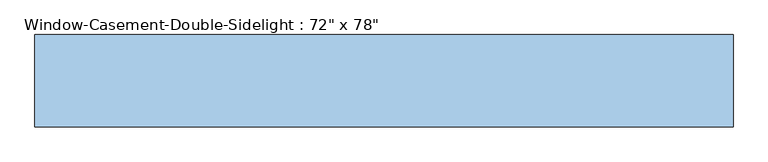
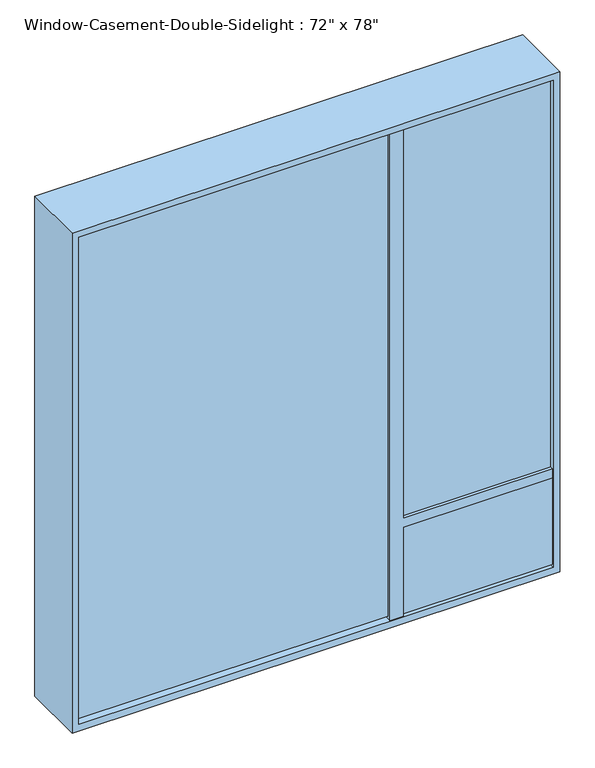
"""IFC4 building model written with IfcOpenShell, lengths in millimetres: window geometry."""

from ifc_helpers import new_model, si_unit, frame, origin, place, context, project, spatial, polyline, outline, extrude, faceted_brep, source, transform, mapped, element, save


def window_9a4b9100(model_context):
    return source(origin(), model_context, "Body", "SolidModel", [
        faceted_brep([(-889.0, -79.375, 2870.2), (279.4, -79.375, 2870.2), (279.4, -117.475, 2870.2), (330.2, -117.475, 2870.2), (330.2, -79.375, 2870.2), (889.0, -79.375, 2870.2), (889.0, -120.65, 2870.2), (-889.0, -120.65, 2870.2), (-878.8796875, -28.575, 2860.0796875), (279.4, -28.575, 2860.0796875), (279.4, -79.375, 2860.0796875), (-878.8796875, -79.375, 2860.0796875), (878.8796875, -79.375, 2860.0796875), (340.3203125, -79.375, 2860.0796875), (340.3203125, -28.575, 2860.0796875), (878.8796875, -28.575, 2860.0796875), (-889.0, 120.65, 2870.2), (889.0, 120.65, 2870.2), (889.0, -28.575, 2870.2), (-889.0, -28.575, 2870.2), (-914.4, -120.65, 2895.6), (914.4, -120.65, 2895.6), (914.4, 120.65, 2895.6), (-914.4, 120.65, 2895.6), (889.0, -79.375, 1328.4001563), (889.0, -117.475, 1328.4001563), (889.0, -117.475, 1292.8798438), (889.0, -79.375, 1292.8798438), (889.0, -79.375, 939.8), (889.0, -120.65, 939.8), (878.8796875, -28.575, 1328.4001563), (878.8796875, -79.375, 1328.4001563), (878.8796875, -79.375, 949.9203125), (878.8796875, -79.375, 1292.8798438), (878.8796875, -28.575, 1292.8798438), (878.8796875, -28.575, 949.9203125), (889.0, 120.65, 939.8), (889.0, -28.575, 939.8), (914.4, -120.65, 914.4), (914.4, 120.65, 914.4), (330.2, -79.375, 939.8), (330.2, -117.475, 939.8), (279.4, -117.475, 939.8), (279.4, -79.375, 939.8), (-889.0, -79.375, 939.8), (-889.0, -120.65, 939.8), (340.3203125, -28.575, 949.9203125), (340.3203125, -79.375, 949.9203125), (-878.8796875, -79.375, 949.9203125), (279.4, -79.375, 949.9203125), (279.4, -28.575, 949.9203125), (-878.8796875, -28.575, 949.9203125), (-889.0, 120.65, 939.8), (-889.0, -28.575, 939.8), (-914.4, -120.65, 914.4), (-914.4, 120.65, 914.4), (330.2, -79.375, 1328.4001563), (340.3203125, -79.375, 1328.4001563), (340.3203125, -79.375, 1292.8798438), (330.2, -79.375, 1292.8798438), (340.3203125, -28.575, 1328.4001563), (340.3203125, -28.575, 1292.8798438), (330.2, -117.475, 1292.8798438), (330.2, -117.475, 1328.4001563)], [[[0, 1, 2, 3, 4, 5, 6, 7]], [[8, 9, 10, 11]], [[12, 13, 14, 15]], [[16, 17, 18, 19]], [[20, 21, 22, 23]], [[5, 24, 25, 26, 27, 28, 29, 6]], [[15, 30, 31, 12]], [[32, 33, 34, 35]], [[17, 36, 37, 18]], [[21, 38, 39, 22]], [[28, 40, 41, 42, 43, 44, 45, 29]], [[35, 46, 47, 32]], [[48, 49, 50, 51]], [[36, 52, 53, 37]], [[38, 54, 55, 39]], [[7, 45, 44, 0]], [[12, 31, 24, 5, 4, 56, 57, 13]], [[44, 43, 49, 48, 11, 10, 1, 0]], [[47, 58, 59, 40, 28, 27, 33, 32]], [[11, 48, 51, 8]], [[19, 18, 37, 53], [15, 14, 60, 30], [35, 34, 61, 46], [51, 50, 9, 8]], [[19, 53, 52, 16]], [[22, 39, 55, 23], [16, 52, 36, 17]], [[23, 55, 54, 20]], [[20, 54, 38, 21], [6, 29, 45, 7]], [[42, 41, 62, 26, 25, 63, 3, 2]], [[2, 1, 10, 9, 50, 49, 43, 42]], [[13, 57, 60, 14]], [[46, 61, 58, 47]], [[40, 59, 62, 41]], [[3, 63, 56, 4]], [[62, 59, 58, 61, 34, 33, 27, 26]], [[25, 24, 31, 30, 60, 57, 56, 63]]]),
        extrude(outline(polyline([(889.0, -92.075), (330.2, -92.075), (330.2, -85.725), (889.0, -85.725), (889.0, -92.075)])), frame((0.0, 0.0, 1328.4001563), z_axis=(0.0, 0.0, 1.0), x_axis=(1.0, 0.0, 0.0)), (0.0, 0.0, 1.0), 1541.7998438),
        extrude(outline(polyline([(889.0, -104.775), (330.2, -104.775), (330.2, -98.425), (889.0, -98.425), (889.0, -104.775)])), frame((0.0, 0.0, 1328.4001563), z_axis=(0.0, 0.0, 1.0), x_axis=(1.0, 0.0, 0.0)), (0.0, 0.0, 1.0), 1541.7998438),
        extrude(outline(polyline([(279.4, -104.775), (-889.0, -104.775), (-889.0, -98.425), (279.4, -98.425), (279.4, -104.775)])), frame((0.0, 0.0, 949.9203125), z_axis=(0.0, 0.0, 1.0), x_axis=(1.0, 0.0, 0.0)), (0.0, 0.0, 1.0), 1920.2796875),
        extrude(outline(polyline([(279.4, -92.075), (-889.0, -92.075), (-889.0, -85.725), (279.4, -85.725), (279.4, -92.075)])), frame((0.0, 0.0, 949.9203125), z_axis=(0.0, 0.0, 1.0), x_axis=(1.0, 0.0, 0.0)), (0.0, 0.0, 1.0), 1920.2796875),
        extrude(outline(polyline([(889.0, -104.775), (889.0, -117.475), (330.2, -117.475), (330.2, -104.775), (889.0, -104.775)])), frame((0.0, 0.0, 949.9203125), z_axis=(0.0, 0.0, 1.0), x_axis=(1.0, 0.0, 0.0)), (0.0, 0.0, 1.0), 342.9595312),
        extrude(outline(polyline([(889.0, -92.075), (330.2, -92.075), (330.2, -85.725), (889.0, -85.725), (889.0, -92.075)])), frame((0.0, 0.0, 949.9203125), z_axis=(0.0, 0.0, 1.0), x_axis=(1.0, 0.0, 0.0)), (0.0, 0.0, 1.0), 342.9595312),
    ])


if __name__ == "__main__":
    model = new_model("IFC4")
    model_context = context("Model", 3, world=origin())
    ifc_project = project(units=[si_unit("LENGTHUNIT", "METRE", prefix="MILLI")], contexts=[model_context])
    site = spatial("IfcSite", under=ifc_project)
    building = spatial("IfcBuilding", under=site)
    placement = place(None, origin())
    window_shape = window_9a4b9100(model_context)
    element("IfcWindow", 1, ObjectType="Window-Casement-Double-Sidelight : 72\" x 78\"", at=placement, inside=building, context=model_context, shape_type="MappedRepresentation", body=[
        mapped(window_shape, transform((0.0, 0.0, 0.0), x_axis=(1.0, 0.0, 0.0), y_axis=(0.0, 1.0, 0.0), z_axis=(0.0, 0.0, 1.0))),
    ])
    save(model, "model.ifc")
